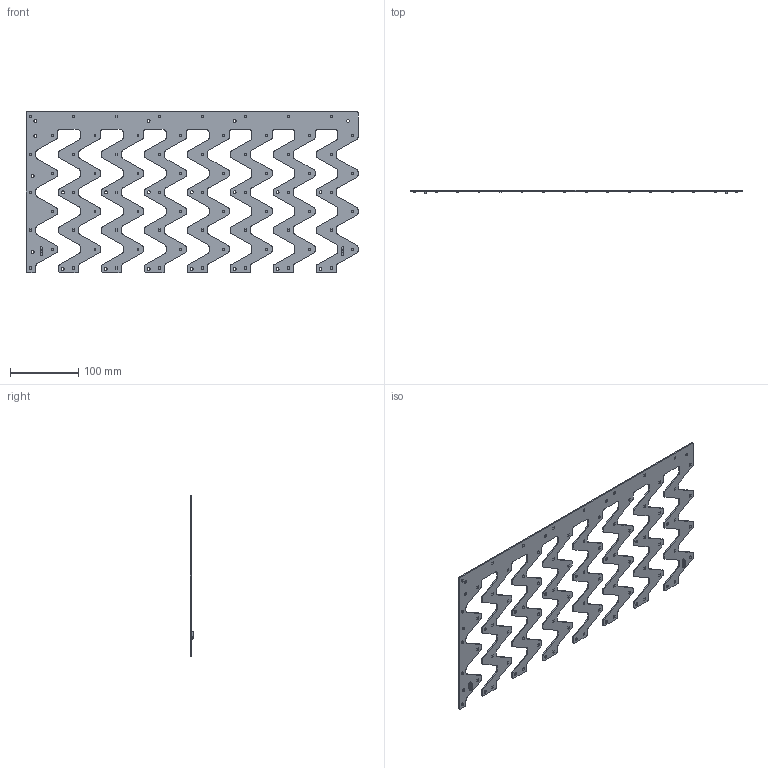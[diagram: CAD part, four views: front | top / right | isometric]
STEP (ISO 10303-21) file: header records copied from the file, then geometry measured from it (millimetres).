
FILE_DESCRIPTION(/* description */ ('Unknown'),/* implementation_level */ '2;1');
FILE_NAME(/* name */ 'RecLED 487x237mm 2500lm 54V G1 sh-000 2020-01-08',/* time_stamp */ '2021-01-11T08:03:51+01:00',/* author */ ('Unknown'),/* organization */ ('Unknown'),/* preprocessor_version */ 'ST-DEVELOPER v16.7',/* originating_system */ 'Solid Edge',/* authorisation */ 'Unknown');
FILE_SCHEMA (('AUTOMOTIVE_DESIGN {1 0 10303 214 3 1 1}'));
Products named in the file (1): RecLED 487x237mm 2500lm 54V G1 sh-000 2020-01-08
Bounding box: 487 x 5.1 x 237 mm (x, y, z)
Volume: 97986.4 mm3; surface area: 133024.2 mm2
Topology: 3 solids, 3 shells, 2135 faces, 5749 edges, 3764 vertices
Faces by surface type: plane 1586, cylinder 389, bspline 104, cone 30, sphere 16, torus 10
Full cylindrical faces by diameter (mm): 4.3 x21
Entity records: 80534 total; most frequent: CARTESIAN_POINT 15882, ORIENTED_EDGE 11408, DIRECTION 10146, EDGE_CURVE 5704, LINE 4570, VECTOR 4570, VERTEX_POINT 3758, AXIS2_PLACEMENT_3D 2788
